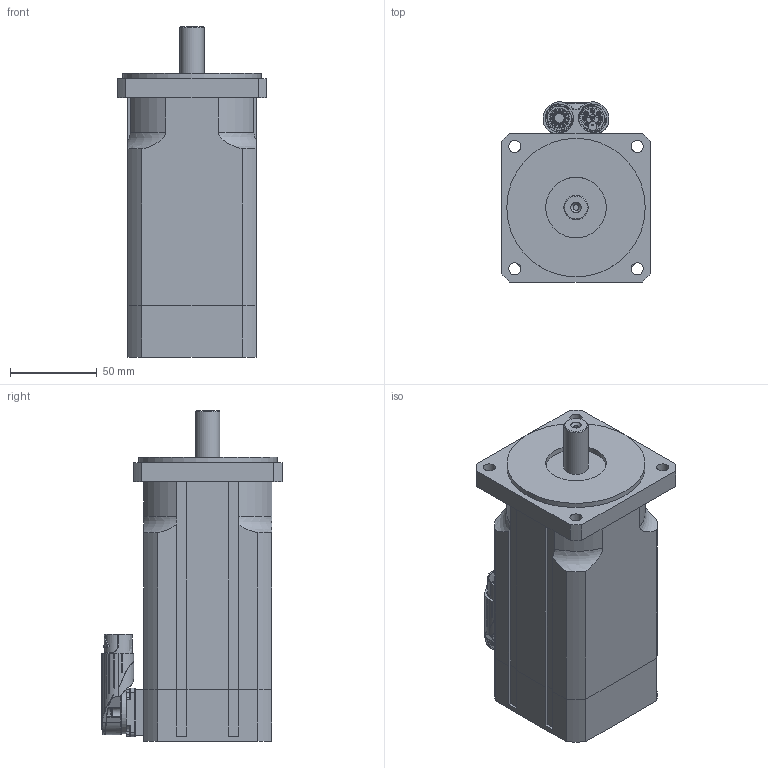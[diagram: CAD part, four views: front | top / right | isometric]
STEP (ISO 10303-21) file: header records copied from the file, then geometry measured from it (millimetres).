
FILE_DESCRIPTION(/* description */ ('Alibre Inc.'),/* implementation_level */ '2;1');
FILE_NAME(/* name */ 'export0',/* time_stamp */ '2011-08-10T12:45:30+02:00',/* author */ (''),/* organization */ (''),/* preprocessor_version */ 'ST-DEVELOPER v12',/* originating_system */ 'Alibre',/* authorisation */ '');
FILE_SCHEMA (('CONFIG_CONTROL_DESIGN'));
Length unit declared in the file: millimetre
Products named in the file (4): ID_1
Bounding box: 86 x 104.2 x 191 mm (x, y, z)
Volume: 907750.5 mm3; surface area: 86398.8 mm2
Topology: 3 solids, 4 shells, 1367 faces, 3362 edges, 2044 vertices
Faces by surface type: bspline 508, plane 358, cylinder 339, torus 86, cone 50, sphere 26
Full cylindrical faces by diameter (mm): 1 x21, 1.5 x1, 1.8 x2, 3.2 x4, 4 x1, 7.5 x1, 8 x1, 11.75 x1, 14 x1, 16.2 x1, 16.95 x1, 17.025 x1, 18.8 x1, 19.8 x1, 20 x1, 22.765 x1, 35 x1, 80 x1
Entity records: 70136 total; most frequent: CARTESIAN_POINT 41510, ORIENTED_EDGE 6272, DIRECTION 4743, EDGE_CURVE 3136, AXIS2_PLACEMENT_3D 2013, VERTEX_POINT 1988, EDGE_LOOP 1588, FACE_BOUND 1588
